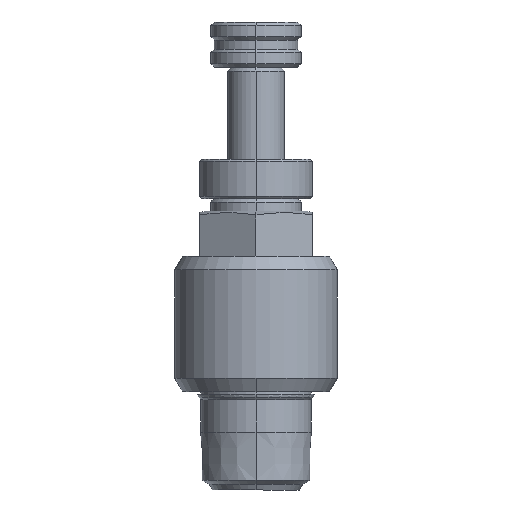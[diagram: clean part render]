
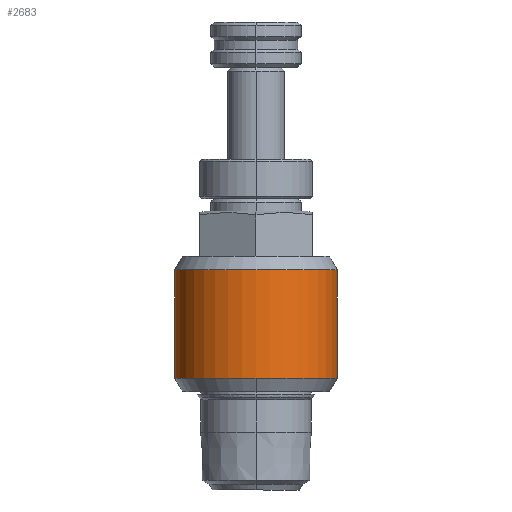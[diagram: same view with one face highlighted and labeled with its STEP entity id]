
A CAD part, left-side view. The second image highlights one B-rep face of the part: STEP entity #2683.
In plain terms, the highlighted cylindrical face has radius 7.2 mm (diameter 14.4 mm), a partial arc.
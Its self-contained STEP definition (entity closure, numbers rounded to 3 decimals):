
#106 = EDGE_CURVE ( 'NONE', #1042, #322, #2379, .T. ) ;
#133 = ORIENTED_EDGE ( 'NONE', *, *, #106, .T. ) ;
#145 = CARTESIAN_POINT ( 'NONE',  ( 0., 0., 9.912 ) ) ;
#203 = DIRECTION ( 'NONE',  ( 0., 0., 1. ) ) ;
#307 = FACE_OUTER_BOUND ( 'NONE', #1152, .T. ) ;
#322 = VERTEX_POINT ( 'NONE', #530 ) ;
#464 = ORIENTED_EDGE ( 'NONE', *, *, #2497, .T. ) ;
#506 = ORIENTED_EDGE ( 'NONE', *, *, #2709, .F. ) ;
#530 = CARTESIAN_POINT ( 'NONE',  ( -7.2, 0., 9.912 ) ) ;
#677 = ORIENTED_EDGE ( 'NONE', *, *, #1534, .T. ) ;
#679 = VERTEX_POINT ( 'NONE', #2501 ) ;
#734 = CARTESIAN_POINT ( 'NONE',  ( 0., -7.2, 9.912 ) ) ;
#787 = DIRECTION ( 'NONE',  ( 0., 0., 1. ) ) ;
#806 = CARTESIAN_POINT ( 'NONE',  ( 0., 7.2, 9.912 ) ) ;
#842 = LINE ( 'NONE', #806, #1373 ) ;
#905 = AXIS2_PLACEMENT_3D ( 'NONE', #1798, #2061, #2074 ) ;
#934 = DIRECTION ( 'NONE',  ( 0., -1., 0. ) ) ;
#1007 = AXIS2_PLACEMENT_3D ( 'NONE', #1469, #1558, #1972 ) ;
#1042 = VERTEX_POINT ( 'NONE', #1837 ) ;
#1085 = EDGE_CURVE ( 'NONE', #1978, #679, #2933, .T. ) ;
#1104 = CARTESIAN_POINT ( 'NONE',  ( 0., 0., 9.912 ) ) ;
#1152 = EDGE_LOOP ( 'NONE', ( #506, #133, #677, #2451, #464 ) ) ;
#1373 = VECTOR ( 'NONE', #787, 1000. ) ;
#1455 = VECTOR ( 'NONE', #3075, 1000. ) ;
#1469 = CARTESIAN_POINT ( 'NONE',  ( 0., 0., 9.912 ) ) ;
#1534 = EDGE_CURVE ( 'NONE', #322, #1978, #1682, .T. ) ;
#1558 = DIRECTION ( 'NONE',  ( 0., 0., 1. ) ) ;
#1575 = VERTEX_POINT ( 'NONE', #3102 ) ;
#1682 = CIRCLE ( 'NONE', #2122, 7.2 ) ;
#1798 = CARTESIAN_POINT ( 'NONE',  ( 0., 0., 19.488 ) ) ;
#1837 = CARTESIAN_POINT ( 'NONE',  ( 0., 7.2, 9.912 ) ) ;
#1952 = AXIS2_PLACEMENT_3D ( 'NONE', #145, #2790, #2782 ) ;
#1972 = DIRECTION ( 'NONE',  ( 0., -1., 0. ) ) ;
#1978 = VERTEX_POINT ( 'NONE', #734 ) ;
#2029 = CYLINDRICAL_SURFACE ( 'NONE', #1007, 7.2 ) ;
#2061 = DIRECTION ( 'NONE',  ( 0., 0., -1. ) ) ;
#2074 = DIRECTION ( 'NONE',  ( 0., -1., 0. ) ) ;
#2122 = AXIS2_PLACEMENT_3D ( 'NONE', #1104, #203, #934 ) ;
#2379 = CIRCLE ( 'NONE', #1952, 7.2 ) ;
#2438 = CARTESIAN_POINT ( 'NONE',  ( 0., -7.2, 9.912 ) ) ;
#2451 = ORIENTED_EDGE ( 'NONE', *, *, #1085, .T. ) ;
#2497 = EDGE_CURVE ( 'NONE', #679, #1575, #2583, .T. ) ;
#2501 = CARTESIAN_POINT ( 'NONE',  ( 0., -7.2, 19.488 ) ) ;
#2583 = CIRCLE ( 'NONE', #905, 7.2 ) ;
#2683 = ADVANCED_FACE ( '79', ( #307 ), #2029, .T. ) ;
#2709 = EDGE_CURVE ( 'NONE', #1042, #1575, #842, .T. ) ;
#2782 = DIRECTION ( 'NONE',  ( 1., 0., 0. ) ) ;
#2790 = DIRECTION ( 'NONE',  ( 0., 0., 1. ) ) ;
#2933 = LINE ( 'NONE', #2438, #1455 ) ;
#3075 = DIRECTION ( 'NONE',  ( 0., 0., 1. ) ) ;
#3102 = CARTESIAN_POINT ( 'NONE',  ( 0., 7.2, 19.488 ) ) ;
